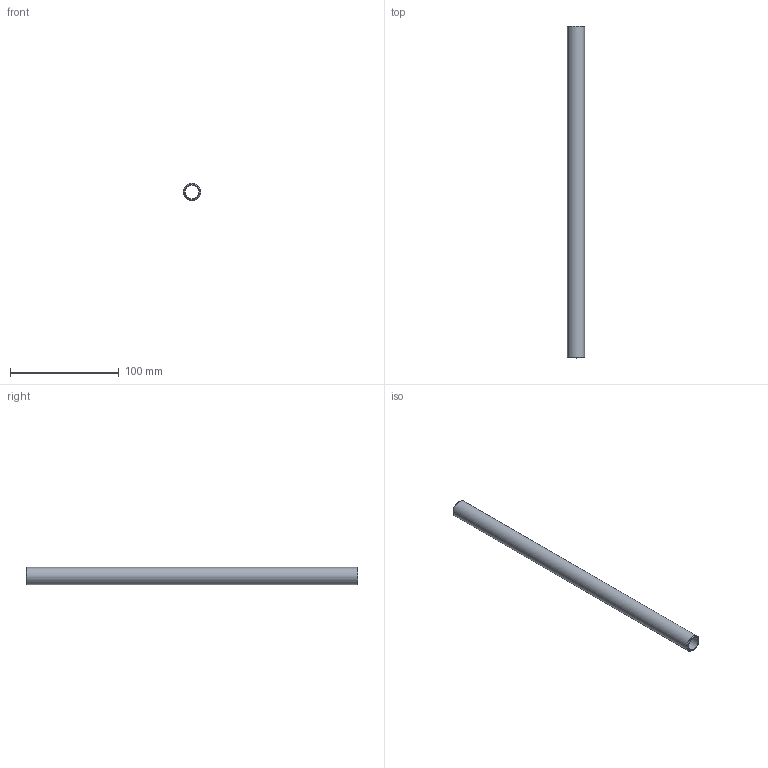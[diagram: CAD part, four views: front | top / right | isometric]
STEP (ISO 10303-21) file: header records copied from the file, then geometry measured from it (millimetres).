
FILE_DESCRIPTION(/* description */ (''),/* implementation_level */ '2;1');
FILE_NAME(/* name */ 'C:/Users/drich/Desktop/625T-12 v1.step',/* time_stamp */ '2019-12-27T17:34:10-06:00',/* author */ (''),/* organization */ (''),/* preprocessor_version */ 'ST-DEVELOPER v18',/* originating_system */ 'Autodesk Translation Framework v8.12.0.6',/* authorisation */ '');
FILE_SCHEMA (('AUTOMOTIVE_DESIGN { 1 0 10303 214 3 1 1 }'));
Length unit declared in the file: inch
Products named in the file (1): 625T-12
Bounding box: 15.73 x 304.8 x 15.73 mm (x, y, z)
Volume: 21368.9 mm3; surface area: 27201.2 mm2
Topology: 1 solids, 1 shells, 6 faces, 14 edges, 10 vertices
Faces by surface type: cone 2, cylinder 2, plane 2
Full cylindrical faces by diameter (mm): 12.573 x1, 15.73 x1
Entity records: 230 total; most frequent: DIRECTION 38, CARTESIAN_POINT 31, ORIENTED_EDGE 28, AXIS2_PLACEMENT_3D 17, EDGE_CURVE 14, CIRCLE 10, VERTEX_POINT 10, EDGE_LOOP 8
